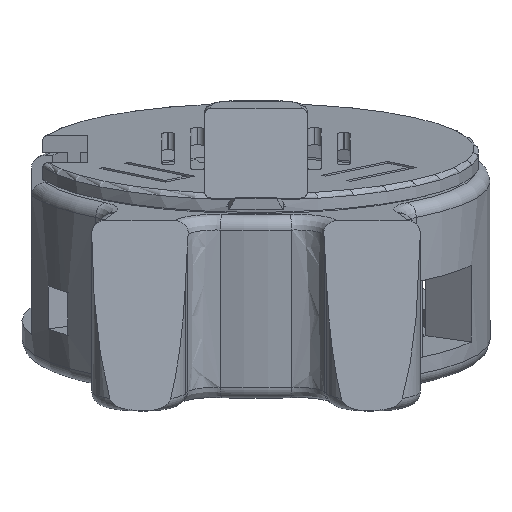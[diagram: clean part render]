
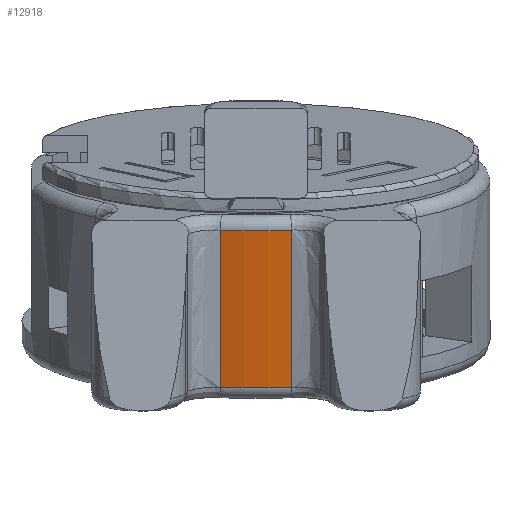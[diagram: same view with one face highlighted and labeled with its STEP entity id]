
A CAD part, front view. The second image highlights one B-rep face of the part: STEP entity #12918.
In plain terms, the highlighted cylindrical face has radius 32 mm (diameter 64 mm), a partial arc.
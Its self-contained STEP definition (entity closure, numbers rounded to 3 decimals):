
#2392 = TOROIDAL_SURFACE('',#2393,30.2,1.8);
#2393 = AXIS2_PLACEMENT_3D('',#2394,#2395,#2396);
#2394 = CARTESIAN_POINT('',(0.,33.552,23.28));
#2395 = DIRECTION('',(0.,-0.208,0.978));
#2396 = DIRECTION('',(0.153,-0.967,-0.205));
#3857 = TOROIDAL_SURFACE('',#3858,30.2,1.8);
#3858 = AXIS2_PLACEMENT_3D('',#3859,#3860,#3861);
#3859 = CARTESIAN_POINT('',(0.,38.126,1.761));
#3860 = DIRECTION('',(-0.,0.208,-0.978));
#3861 = DIRECTION('',(-0.153,-0.967,-0.205));
#6998 = ( BOUNDED_SURFACE() B_SPLINE_SURFACE(2,2,(
    (#6999,#7000,#7001,#7002,#7003)
    ,(#7004,#7005,#7006,#7007,#7008)
    ,(#7009,#7010,#7011,#7012,#7013
)),.UNSPECIFIED.,.F.,.F.,.F.) B_SPLINE_SURFACE_WITH_KNOTS((3,3),(3,1,1,3
    ),(0.,25.6),(-1.567,0.,25.6,27.167),
.UNSPECIFIED.) GEOMETRIC_REPRESENTATION_ITEM() RATIONAL_B_SPLINE_SURFACE
((
    (1.,1.,1.,1.,1.)
    ,(0.739,0.739,0.739,0.739
      ,0.739)
,(1.,1.,1.,1.,1.))) REPRESENTATION_ITEM('') SURFACE() );
#6999 = CARTESIAN_POINT('',(-4.885,1.918,
    19.998));
#7000 = CARTESIAN_POINT('',(-4.885,2.081,
    19.232));
#7001 = CARTESIAN_POINT('',(-4.885,4.905,
    5.945));
#7002 = CARTESIAN_POINT('',(-4.885,7.729,
    -7.341));
#7003 = CARTESIAN_POINT('',(-4.885,7.892,
    -8.108));
#7004 = CARTESIAN_POINT('',(-8.494,2.463,
    20.114));
#7005 = CARTESIAN_POINT('',(-8.494,2.626,
    19.348));
#7006 = CARTESIAN_POINT('',(-8.494,5.45,6.061
    ));
#7007 = CARTESIAN_POINT('',(-8.494,8.274,
    -7.226));
#7008 = CARTESIAN_POINT('',(-8.494,8.437,
    -7.992));
#7009 = CARTESIAN_POINT('',(-9.377,-1.002,
    19.377));
#7010 = CARTESIAN_POINT('',(-9.377,-0.839,
    18.611));
#7011 = CARTESIAN_POINT('',(-9.377,1.985,
    5.324));
#7012 = CARTESIAN_POINT('',(-9.377,4.809,
    -7.962));
#7013 = CARTESIAN_POINT('',(-9.377,4.972,
    -8.728));
#7333 = VERTEX_POINT('',#7334);
#7334 = CARTESIAN_POINT('',(-4.885,2.618,
    16.705));
#7471 = VERTEX_POINT('',#7472);
#7472 = CARTESIAN_POINT('',(4.885,2.618,
    16.705));
#7500 = EDGE_CURVE('',#7471,#7333,#7501,.T.);
#7501 = SURFACE_CURVE('',#7502,(#7507,#7514),.PCURVE_S1.);
#7502 = CIRCLE('',#7503,32.);
#7503 = AXIS2_PLACEMENT_3D('',#7504,#7505,#7506);
#7504 = CARTESIAN_POINT('',(0.,33.552,23.28));
#7505 = DIRECTION('',(0.,0.208,-0.978
    ));
#7506 = DIRECTION('',(0.153,-0.967,-0.205));
#7507 = PCURVE('',#2392,#7508);
#7508 = DEFINITIONAL_REPRESENTATION('',(#7509),#7513);
#7509 = LINE('',#7510,#7511);
#7510 = CARTESIAN_POINT('',(-0.,0.));
#7511 = VECTOR('',#7512,1.);
#7512 = DIRECTION('',(-1.,0.));
#7513 = ( GEOMETRIC_REPRESENTATION_CONTEXT(2) 
PARAMETRIC_REPRESENTATION_CONTEXT() REPRESENTATION_CONTEXT('2D SPACE',''
  ) );
#7514 = PCURVE('',#7515,#7520);
#7515 = CYLINDRICAL_SURFACE('',#7516,32.);
#7516 = AXIS2_PLACEMENT_3D('',#7517,#7518,#7519);
#7517 = CARTESIAN_POINT('',(0.,38.5,0.));
#7518 = DIRECTION('',(-0.,0.208,-0.978));
#7519 = DIRECTION('',(1.,0.,0.));
#7520 = DEFINITIONAL_REPRESENTATION('',(#7521),#7525);
#7521 = LINE('',#7522,#7523);
#7522 = CARTESIAN_POINT('',(-4.866,-23.8));
#7523 = VECTOR('',#7524,1.);
#7524 = DIRECTION('',(1.,-0.));
#7525 = ( GEOMETRIC_REPRESENTATION_CONTEXT(2) 
PARAMETRIC_REPRESENTATION_CONTEXT() REPRESENTATION_CONTEXT('2D SPACE',''
  ) );
#7558 = ( BOUNDED_SURFACE() B_SPLINE_SURFACE(2,2,(
    (#7559,#7560,#7561,#7562,#7563)
    ,(#7564,#7565,#7566,#7567,#7568)
    ,(#7569,#7570,#7571,#7572,#7573
)),.UNSPECIFIED.,.F.,.F.,.F.) B_SPLINE_SURFACE_WITH_KNOTS((3,3),(3,1,1,3
    ),(0.,25.6),(-1.567,0.,25.6,27.167),
.UNSPECIFIED.) GEOMETRIC_REPRESENTATION_ITEM() RATIONAL_B_SPLINE_SURFACE
((
    (1.,1.,1.,1.,1.)
    ,(0.739,0.739,0.739,0.739
      ,0.739)
,(1.,1.,1.,1.,1.))) REPRESENTATION_ITEM('') SURFACE() );
#7559 = CARTESIAN_POINT('',(4.885,1.918,
    19.998));
#7560 = CARTESIAN_POINT('',(4.885,2.081,
    19.232));
#7561 = CARTESIAN_POINT('',(4.885,4.905,5.945
    ));
#7562 = CARTESIAN_POINT('',(4.885,7.729,
    -7.341));
#7563 = CARTESIAN_POINT('',(4.885,7.892,
    -8.108));
#7564 = CARTESIAN_POINT('',(8.494,2.463,
    20.114));
#7565 = CARTESIAN_POINT('',(8.494,2.626,
    19.348));
#7566 = CARTESIAN_POINT('',(8.494,5.45,6.061)
  );
#7567 = CARTESIAN_POINT('',(8.494,8.274,
    -7.226));
#7568 = CARTESIAN_POINT('',(8.494,8.437,
    -7.992));
#7569 = CARTESIAN_POINT('',(9.377,-1.002,
    19.377));
#7570 = CARTESIAN_POINT('',(9.377,-0.839,
    18.611));
#7571 = CARTESIAN_POINT('',(9.377,1.985,5.324
    ));
#7572 = CARTESIAN_POINT('',(9.377,4.809,
    -7.962));
#7573 = CARTESIAN_POINT('',(9.377,4.972,
    -8.728));
#10364 = VERTEX_POINT('',#10365);
#10365 = CARTESIAN_POINT('',(-4.885,7.192,
    -4.815));
#10494 = EDGE_CURVE('',#10364,#10495,#10497,.T.);
#10495 = VERTEX_POINT('',#10496);
#10496 = CARTESIAN_POINT('',(4.885,7.192,
    -4.815));
#10497 = SURFACE_CURVE('',#10498,(#10503,#10510),.PCURVE_S1.);
#10498 = CIRCLE('',#10499,32.);
#10499 = AXIS2_PLACEMENT_3D('',#10500,#10501,#10502);
#10500 = CARTESIAN_POINT('',(0.,38.126,1.761));
#10501 = DIRECTION('',(0.,-0.208,
    0.978));
#10502 = DIRECTION('',(-0.153,-0.967,-0.205)
  );
#10503 = PCURVE('',#3857,#10504);
#10504 = DEFINITIONAL_REPRESENTATION('',(#10505),#10509);
#10505 = LINE('',#10506,#10507);
#10506 = CARTESIAN_POINT('',(-0.,0.));
#10507 = VECTOR('',#10508,1.);
#10508 = DIRECTION('',(-1.,0.));
#10509 = ( GEOMETRIC_REPRESENTATION_CONTEXT(2) 
PARAMETRIC_REPRESENTATION_CONTEXT() REPRESENTATION_CONTEXT('2D SPACE',''
  ) );
#10510 = PCURVE('',#7515,#10511);
#10511 = DEFINITIONAL_REPRESENTATION('',(#10512),#10516);
#10512 = LINE('',#10513,#10514);
#10513 = CARTESIAN_POINT('',(-4.559,-1.8));
#10514 = VECTOR('',#10515,1.);
#10515 = DIRECTION('',(-1.,0.));
#10516 = ( GEOMETRIC_REPRESENTATION_CONTEXT(2) 
PARAMETRIC_REPRESENTATION_CONTEXT() REPRESENTATION_CONTEXT('2D SPACE',''
  ) );
#12893 = EDGE_CURVE('',#7333,#10364,#12894,.T.);
#12894 = SURFACE_CURVE('',#12895,(#12901,#12908),.PCURVE_S1.);
#12895 = B_SPLINE_CURVE_WITH_KNOTS('',2,(#12896,#12897,#12898,#12899,
    #12900),.UNSPECIFIED.,.F.,.F.,(3,1,1,3),(-1.567,
    0.,25.6,27.167),.UNSPECIFIED.);
#12896 = CARTESIAN_POINT('',(-4.885,1.918,
    19.998));
#12897 = CARTESIAN_POINT('',(-4.885,2.081,
    19.232));
#12898 = CARTESIAN_POINT('',(-4.885,4.905,
    5.945));
#12899 = CARTESIAN_POINT('',(-4.885,7.729,
    -7.341));
#12900 = CARTESIAN_POINT('',(-4.885,7.892,
    -8.108));
#12901 = PCURVE('',#6998,#12902);
#12902 = DEFINITIONAL_REPRESENTATION('',(#12903),#12907);
#12903 = LINE('',#12904,#12905);
#12904 = CARTESIAN_POINT('',(0.,0.));
#12905 = VECTOR('',#12906,1.);
#12906 = DIRECTION('',(0.,1.));
#12907 = ( GEOMETRIC_REPRESENTATION_CONTEXT(2) 
PARAMETRIC_REPRESENTATION_CONTEXT() REPRESENTATION_CONTEXT('2D SPACE',''
  ) );
#12908 = PCURVE('',#7515,#12909);
#12909 = DEFINITIONAL_REPRESENTATION('',(#12910),#12913);
#12910 = B_SPLINE_CURVE_WITH_KNOTS('',1,(#12911,#12912),.UNSPECIFIED.,
  .F.,.F.,(2,2),(0.,25.6),.PIECEWISE_BEZIER_KNOTS.);
#12911 = CARTESIAN_POINT('',(-4.559,-25.6));
#12912 = CARTESIAN_POINT('',(-4.559,0.));
#12913 = ( GEOMETRIC_REPRESENTATION_CONTEXT(2) 
PARAMETRIC_REPRESENTATION_CONTEXT() REPRESENTATION_CONTEXT('2D SPACE',''
  ) );
#12918 = ADVANCED_FACE('',(#12919),#7515,.T.);
#12919 = FACE_BOUND('',#12920,.F.);
#12920 = EDGE_LOOP('',(#12921,#12922,#12923,#12945));
#12921 = ORIENTED_EDGE('',*,*,#12893,.F.);
#12922 = ORIENTED_EDGE('',*,*,#7500,.F.);
#12923 = ORIENTED_EDGE('',*,*,#12924,.T.);
#12924 = EDGE_CURVE('',#7471,#10495,#12925,.T.);
#12925 = SURFACE_CURVE('',#12926,(#12932,#12938),.PCURVE_S1.);
#12926 = B_SPLINE_CURVE_WITH_KNOTS('',2,(#12927,#12928,#12929,#12930,
    #12931),.UNSPECIFIED.,.F.,.F.,(3,1,1,3),(-1.567,
    0.,25.6,27.167),.UNSPECIFIED.);
#12927 = CARTESIAN_POINT('',(4.885,1.918,
    19.998));
#12928 = CARTESIAN_POINT('',(4.885,2.081,
    19.232));
#12929 = CARTESIAN_POINT('',(4.885,4.905,
    5.945));
#12930 = CARTESIAN_POINT('',(4.885,7.729,
    -7.341));
#12931 = CARTESIAN_POINT('',(4.885,7.892,
    -8.108));
#12932 = PCURVE('',#7515,#12933);
#12933 = DEFINITIONAL_REPRESENTATION('',(#12934),#12937);
#12934 = B_SPLINE_CURVE_WITH_KNOTS('',1,(#12935,#12936),.UNSPECIFIED.,
  .F.,.F.,(2,2),(0.,25.6),.PIECEWISE_BEZIER_KNOTS.);
#12935 = CARTESIAN_POINT('',(-4.866,-25.6));
#12936 = CARTESIAN_POINT('',(-4.866,0.));
#12937 = ( GEOMETRIC_REPRESENTATION_CONTEXT(2) 
PARAMETRIC_REPRESENTATION_CONTEXT() REPRESENTATION_CONTEXT('2D SPACE',''
  ) );
#12938 = PCURVE('',#7558,#12939);
#12939 = DEFINITIONAL_REPRESENTATION('',(#12940),#12944);
#12940 = LINE('',#12941,#12942);
#12941 = CARTESIAN_POINT('',(0.,0.));
#12942 = VECTOR('',#12943,1.);
#12943 = DIRECTION('',(0.,1.));
#12944 = ( GEOMETRIC_REPRESENTATION_CONTEXT(2) 
PARAMETRIC_REPRESENTATION_CONTEXT() REPRESENTATION_CONTEXT('2D SPACE',''
  ) );
#12945 = ORIENTED_EDGE('',*,*,#10494,.F.);
